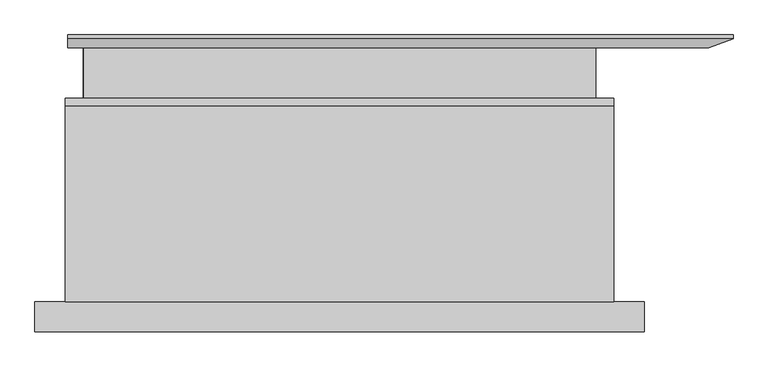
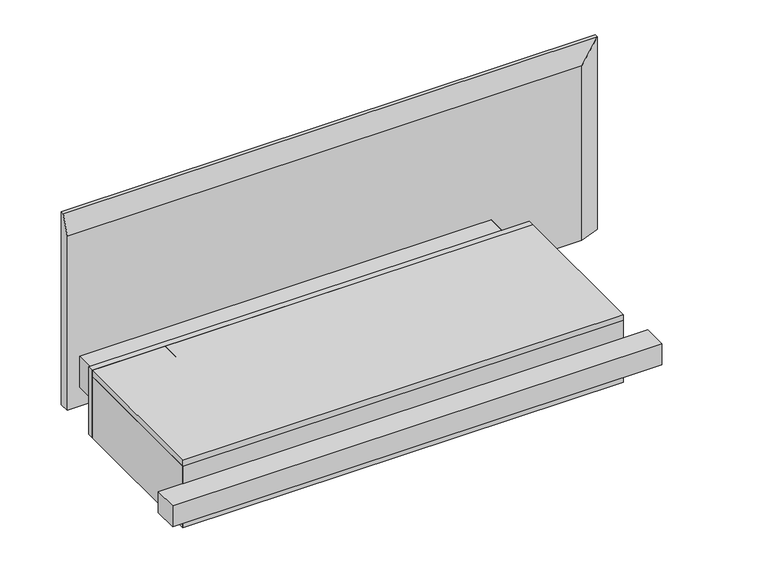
"""IFC4 building model written with IfcOpenShell, lengths in millimetres: proxy geometry, CCN^APOGEE_L4 25x42 LIFT TOP BRIDGE-PARTS SOLID."""

from ifc_helpers import new_model, si_unit, frame, origin, place, context, project, spatial, polyline, outline, extrude, faceted_brep, source, transform, mapped, element, save


def generic_models_2f6af5de(model_context):
    return source(origin(), model_context, "Body", "SolidModel", [
        extrude(outline(polyline([(0.0, -146.05), (1371.6, -146.05), (1371.6, -635.0), (0.0, -635.0), (0.0, -146.05)])), frame((0.0, 0.0, -431.8), z_axis=(0.0, 0.0, 1.0), x_axis=(1.0, 0.0, 0.0)), (0.0, 0.0, 1.0), 19.05),
        extrude(outline(polyline([(1371.6, -635.0), (0.0, -635.0), (19.05, -615.95), (1352.55, -615.95), (1371.6, -635.0)])), frame((0.0, 0.0, -635.0), z_axis=(0.0, 0.0, 1.0), x_axis=(1.0, 0.0, 0.0)), (0.0, 0.0, 1.0), 203.2),
        extrude(outline(polyline([(-520.7, 95.25), (-469.9, 44.45), (-571.5, 44.45), (-520.7, 95.25)])), frame((0.0, -546.1, 0.0), z_axis=(0.0, 1.0, 0.0), x_axis=(0.0, 0.0, 1.0)), (0.0, 0.0, 1.0), 546.1),
        extrude(outline(polyline([(-469.9, 1327.15), (-520.7, 1276.35), (-571.5, 1327.15), (-469.9, 1327.15)])), frame((0.0, -546.1, 0.0), z_axis=(0.0, 1.0, 0.0), x_axis=(0.0, 0.0, 1.0)), (0.0, 0.0, 1.0), 546.1),
        extrude(outline(polyline([(1371.6, -146.05), (0.0, -146.05), (0.0, -127.0), (1371.6, -127.0), (1371.6, -146.05)])), frame((0.0, 0.0, -635.0), z_axis=(0.0, 0.0, 1.0), x_axis=(1.0, 0.0, 0.0)), (0.0, 0.0, 1.0), 222.25),
        extrude(outline(polyline([(-76.2, -635.0), (1447.8, -635.0), (1447.8, -711.2), (-76.2, -711.2), (-76.2, -635.0)])), frame((0.0, 0.0, -558.8), z_axis=(0.0, 0.0, 1.0), x_axis=(1.0, 0.0, 0.0)), (0.0, 0.0, 1.0), 69.85),
        extrude(outline(polyline([(1369.21875, -321.46875), (227.0125, -321.46875), (227.0125, -149.225), (1369.21875, -149.225), (1369.21875, -321.46875)])), frame((0.0, 0.0, -431.8), z_axis=(0.0, 0.0, 1.0), x_axis=(1.0, 0.0, 0.0)), (0.0, 0.0, 1.0), 19.05),
        extrude(outline(polyline([(-571.5, 44.45), (-571.5, 1327.15), (-552.45, 1308.1), (-552.45, 63.5), (-571.5, 44.45)])), frame((0.0, -546.1, 0.0), z_axis=(0.0, 1.0, 0.0), x_axis=(0.0, 0.0, 1.0)), (0.0, 0.0, 1.0), 546.1),
        extrude(outline(polyline([(0.0, -146.05), (19.05, -146.05), (19.05, -615.95), (0.0, -635.0), (0.0, -146.05)])), frame((0.0, 0.0, -635.0), z_axis=(0.0, 0.0, 1.0), x_axis=(1.0, 0.0, 0.0)), (0.0, 0.0, 1.0), 203.2),
        extrude(outline(polyline([(1352.55, -146.05), (1371.6, -146.05), (1371.6, -635.0), (1352.55, -615.95), (1352.55, -146.05)])), frame((0.0, 0.0, -635.0), z_axis=(0.0, 0.0, 1.0), x_axis=(1.0, 0.0, 0.0)), (0.0, 0.0, 1.0), 203.2),
        extrude(outline(polyline([(-469.9, 1327.15), (-469.9, 44.45), (-488.95, 63.5), (-488.95, 1308.1), (-469.9, 1327.15)])), frame((0.0, -546.1, 0.0), z_axis=(0.0, 1.0, 0.0), x_axis=(0.0, 0.0, 1.0)), (0.0, 0.0, 1.0), 546.1),
        faceted_brep([(1670.05, 22.225, 0.0), (1608.9873144, 0.0, -61.0626856), (1608.9873144, 0.0, -635.0), (1670.05, 22.225, -635.0), (6.35, 0.0, -61.0626856), (6.35, 0.0, -635.0), (6.35, 22.225, 0.0), (1670.05, 31.75, -635.0), (1670.05, 31.75, 0.0), (6.35, 31.75, 0.0), (6.35, 31.75, -635.0)], [[[0, 1, 2, 3]], [[2, 1, 4, 5]], [[1, 0, 6, 4]], [[0, 3, 7, 8]], [[4, 6, 9, 10, 5]], [[9, 6, 0, 8]], [[3, 2, 5, 10, 7]], [[10, 9, 8, 7]]]),
    ])


if __name__ == "__main__":
    model = new_model("IFC4")
    model_context = context("Model", 3, world=origin())
    ifc_project = project(units=[si_unit("LENGTHUNIT", "METRE", prefix="MILLI")], contexts=[model_context])
    site = spatial("IfcSite", under=ifc_project)
    building = spatial("IfcBuilding", under=site)
    placement = place(None, origin())
    generic_models_shape = generic_models_2f6af5de(model_context)
    element("IfcBuildingElementProxy", 1, Name="CCN^APOGEE_L4 25x42 LIFT TOP BRIDGE-PARTS SOLID", ObjectType="CCN^APOGEE_L4 25x42 LIFT TOP BRIDGE-PARTS SOLID", at=placement, inside=building, context=model_context, shape_type="MappedRepresentation", body=[
        mapped(generic_models_shape, transform((0.0, 0.0, 0.0), x_axis=(1.0, 0.0, 0.0), y_axis=(0.0, 1.0, 0.0), z_axis=(0.0, 0.0, 1.0))),
    ])
    save(model, "model.ifc")
